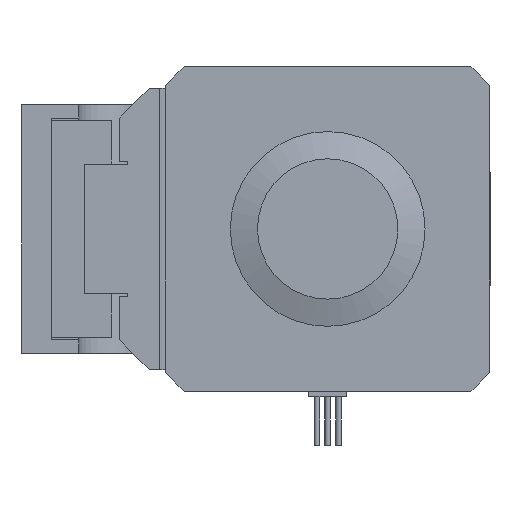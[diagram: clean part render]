
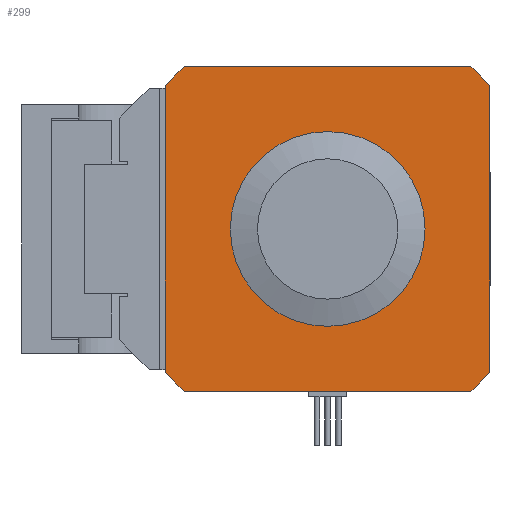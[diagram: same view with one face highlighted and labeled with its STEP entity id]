
A CAD part, left-side view. The second image highlights one B-rep face of the part: STEP entity #299.
In plain terms, the highlighted planar face has unit normal (-1, 0, 0).
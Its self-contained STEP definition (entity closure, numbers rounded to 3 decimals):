
#299 = ADVANCED_FACE( '', ( #791, #792 ), #793, .F. );
#791 = FACE_OUTER_BOUND( '', #1682, .T. );
#792 = FACE_BOUND( '', #1683, .T. );
#793 = PLANE( '', #1684 );
#1682 = EDGE_LOOP( '', ( #3496, #3497, #3498, #3499, #3500, #3501, #3502, #3503 ) );
#1683 = EDGE_LOOP( '', ( #3504 ) );
#1684 = AXIS2_PLACEMENT_3D( '', #3505, #3506, #3507 );
#3496 = ORIENTED_EDGE( '', *, *, #5898, .F. );
#3497 = ORIENTED_EDGE( '', *, *, #5899, .F. );
#3498 = ORIENTED_EDGE( '', *, *, #5900, .F. );
#3499 = ORIENTED_EDGE( '', *, *, #5901, .F. );
#3500 = ORIENTED_EDGE( '', *, *, #5902, .F. );
#3501 = ORIENTED_EDGE( '', *, *, #5813, .F. );
#3502 = ORIENTED_EDGE( '', *, *, #5903, .F. );
#3503 = ORIENTED_EDGE( '', *, *, #5904, .F. );
#3504 = ORIENTED_EDGE( '', *, *, #5905, .F. );
#3505 = CARTESIAN_POINT( '', ( -98., 0., 0. ) );
#3506 = DIRECTION( '', ( 1., 0., 0. ) );
#3507 = DIRECTION( '', ( 0., 0., -1. ) );
#5813 = EDGE_CURVE( '', #6966, #6968, #6969, .T. );
#5898 = EDGE_CURVE( '', #7104, #7105, #7106, .T. );
#5899 = EDGE_CURVE( '', #7107, #7104, #7108, .T. );
#5900 = EDGE_CURVE( '', #7109, #7107, #7110, .T. );
#5901 = EDGE_CURVE( '', #7111, #7109, #7112, .T. );
#5902 = EDGE_CURVE( '', #6968, #7111, #7113, .T. );
#5903 = EDGE_CURVE( '', #7114, #6966, #7115, .T. );
#5904 = EDGE_CURVE( '', #7105, #7114, #7116, .T. );
#5905 = EDGE_CURVE( '', #7117, #7117, #7118, .F. );
#6966 = VERTEX_POINT( '', #8744 );
#6968 = VERTEX_POINT( '', #8747 );
#6969 = LINE( '', #8748, #8749 );
#7104 = VERTEX_POINT( '', #8943 );
#7105 = VERTEX_POINT( '', #8944 );
#7106 = CIRCLE( '', #8945, 40. );
#7107 = VERTEX_POINT( '', #8946 );
#7108 = LINE( '', #8947, #8948 );
#7109 = VERTEX_POINT( '', #8949 );
#7110 = CIRCLE( '', #8950, 40. );
#7111 = VERTEX_POINT( '', #8951 );
#7112 = LINE( '', #8952, #8953 );
#7113 = CIRCLE( '', #8954, 40. );
#7114 = VERTEX_POINT( '', #8955 );
#7115 = CIRCLE( '', #8956, 40. );
#7116 = LINE( '', #8957, #8958 );
#7117 = VERTEX_POINT( '', #8959 );
#7118 = CIRCLE( '', #8960, 10. );
#8744 = CARTESIAN_POINT( '', ( -98., -30., 26.458 ) );
#8747 = CARTESIAN_POINT( '', ( -98., -30., -26.458 ) );
#8748 = CARTESIAN_POINT( '', ( -98., -30., 30. ) );
#8749 = VECTOR( '', #10487, 1000. );
#8943 = CARTESIAN_POINT( '', ( -98., 30., 26.458 ) );
#8944 = CARTESIAN_POINT( '', ( -98., 26.458, 30. ) );
#8945 = AXIS2_PLACEMENT_3D( '', #10622, #10623, #10624 );
#8946 = CARTESIAN_POINT( '', ( -98., 30., -26.458 ) );
#8947 = CARTESIAN_POINT( '', ( -98., 30., -30. ) );
#8948 = VECTOR( '', #10625, 1000. );
#8949 = CARTESIAN_POINT( '', ( -98., 26.458, -30. ) );
#8950 = AXIS2_PLACEMENT_3D( '', #10626, #10627, #10628 );
#8951 = CARTESIAN_POINT( '', ( -98., -26.458, -30. ) );
#8952 = CARTESIAN_POINT( '', ( -98., -30., -30. ) );
#8953 = VECTOR( '', #10629, 1000. );
#8954 = AXIS2_PLACEMENT_3D( '', #10630, #10631, #10632 );
#8955 = CARTESIAN_POINT( '', ( -98., -26.458, 30. ) );
#8956 = AXIS2_PLACEMENT_3D( '', #10633, #10634, #10635 );
#8957 = CARTESIAN_POINT( '', ( -98., 30., 30. ) );
#8958 = VECTOR( '', #10636, 1000. );
#8959 = CARTESIAN_POINT( '', ( -98., 0., -10. ) );
#8960 = AXIS2_PLACEMENT_3D( '', #10637, #10638, #10639 );
#10487 = DIRECTION( '', ( 0., 0., -1. ) );
#10622 = CARTESIAN_POINT( '', ( -98., 0., 0. ) );
#10623 = DIRECTION( '', ( 1., 0., 0. ) );
#10624 = DIRECTION( '', ( 0., 0., -1. ) );
#10625 = DIRECTION( '', ( 0., 0., 1. ) );
#10626 = CARTESIAN_POINT( '', ( -98., 0., 0. ) );
#10627 = DIRECTION( '', ( 1., 0., 0. ) );
#10628 = DIRECTION( '', ( 0., 0., -1. ) );
#10629 = DIRECTION( '', ( 0., 1., 0. ) );
#10630 = CARTESIAN_POINT( '', ( -98., 0., 0. ) );
#10631 = DIRECTION( '', ( 1., 0., 0. ) );
#10632 = DIRECTION( '', ( 0., 0., -1. ) );
#10633 = CARTESIAN_POINT( '', ( -98., 0., 0. ) );
#10634 = DIRECTION( '', ( 1., 0., 0. ) );
#10635 = DIRECTION( '', ( 0., 0., -1. ) );
#10636 = DIRECTION( '', ( 0., -1., 0. ) );
#10637 = CARTESIAN_POINT( '', ( -98., 0., 0. ) );
#10638 = DIRECTION( '', ( 1., 0., 0. ) );
#10639 = DIRECTION( '', ( 0., 0., -1. ) );
